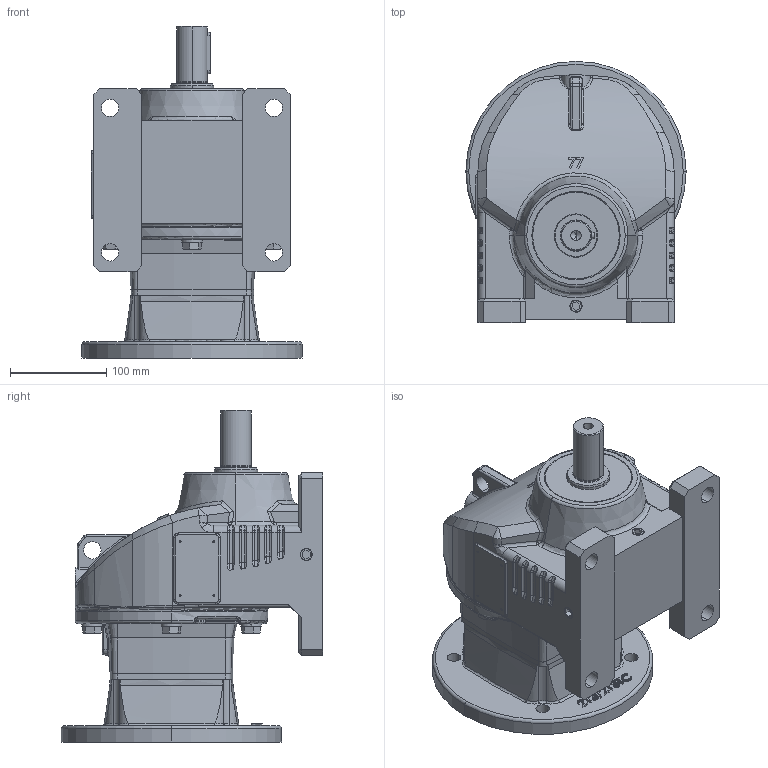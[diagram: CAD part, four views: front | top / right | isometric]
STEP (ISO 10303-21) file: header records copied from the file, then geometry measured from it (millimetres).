
FILE_DESCRIPTION (( 'STEP AP203' ), '1' );
FILE_NAME ('RX077HF-213TC.STEP', '2015-03-16T05:33:39', ( 'user' ), ( '' ), 'SwSTEP 2.0', 'SolidWorks 2012', '' );
FILE_SCHEMA (( 'CONFIG_CONTROL_DESIGN' ));
Products named in the file (26): RX077HF-213TC; PCA025; PCA040_JIS B 2804 Shaft use 40; PCB090; PSS045090101; PBA6308_SKF - 6308 - 10,DE,NC,10_68; JKGB07748L_JKGB07748L; 077法蘭入力組合213T_7.5HP-∮22; PJB02; KNGH213T22_KNGH213T22; P107_JKGA2223R-S; PCA022_JIS B 2804 Shaft use 22; PKD0606022; PBA6211_SKF - 6211 - 14,DE,NC,14_68; PBA6210; PWS12; PTBA10030; PSS055080101; PTAA12035; KFGG213T; JHGA07707; PKD0807018S; PKD1_4043; PBA6306; KEGX077; JCHX077
Assembly tree (39 placements, depth 3):
  RX077HF-213TC
    JCHX077
    KEGX077
    PBA6306
    PKD1_4043
    PKD0807018S
    077法蘭入力組合213T_7.5HP-∮22
      JHGA07707
      KFGG213T
      PTAA12035  x4
      PSS055080101
      PTBA10030  x4
      PWS12  x4
      PBA6210
      PBA6211_SKF - 6211 - 14,DE,NC,14_68
      PKD0606022
      PCA022_JIS B 2804 Shaft use 22
      P107_JKGA2223R-S
      KNGH213T22_KNGH213T22
      PJB02
    JKGB07748L_JKGB07748L
    PJB02  x5
    PBA6308_SKF - 6308 - 10,DE,NC,10_68
    PSS045090101
    PCB090
    PCA040_JIS B 2804 Shaft use 40
    PCA025
Bounding box: 228.6 x 271.3 x 344.7 mm (x, y, z)
Volume: 3957050.4 mm3; surface area: 897203.8 mm2
Topology: 38 solids, 40 shells, 1975 faces, 5400 edges, 3380 vertices
Faces by surface type: cylinder 575, plane 565, torus 275, bspline 255, cone 205, sphere 100
Entity records: 78639 total; most frequent: CARTESIAN_POINT 32563, ORIENTED_EDGE 9484, DIRECTION 8518, EDGE_CURVE 4742, AXIS2_PLACEMENT_3D 3501, VERTEX_POINT 3018, EDGE_LOOP 1992, CIRCLE 1922
